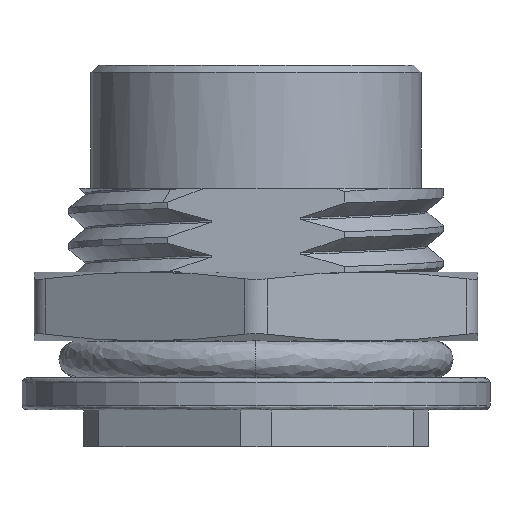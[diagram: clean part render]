
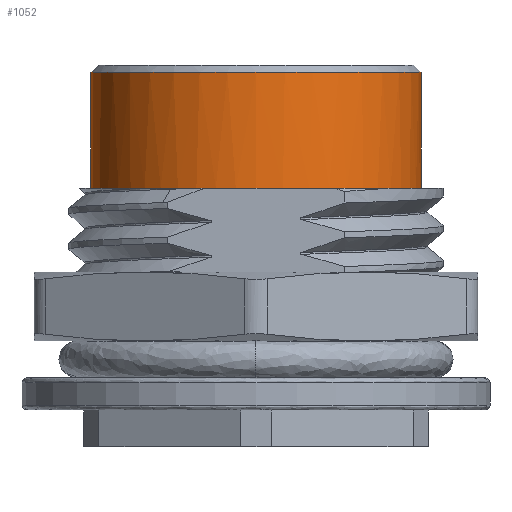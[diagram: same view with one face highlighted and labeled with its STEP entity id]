
A CAD part, left-side view. The second image highlights one B-rep face of the part: STEP entity #1052.
In plain terms, the highlighted cylindrical face has radius 6.7 mm (diameter 13.4 mm), a partial arc.
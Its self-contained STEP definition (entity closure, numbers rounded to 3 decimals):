
#369 = B_SPLINE_CURVE_WITH_KNOTS ( 'NONE', 3,
 ( #14713, #1195, #13230, #5742, #11763, #15460, #14276, #14180, #15661, #2054 ),
 .UNSPECIFIED., .F., .F.,
 ( 4, 2, 2, 2, 4 ),
 ( 0., 0.25, 0.5, 0.75, 1. ),
 .UNSPECIFIED. ) ;
#954 = CARTESIAN_POINT ( 'NONE',  ( -6.7, 0., -5. ) ) ;
#984 = VERTEX_POINT ( 'NONE', #9003 ) ;
#1052 = ADVANCED_FACE ( 'NONE', ( #19322 ), #1072, .T. ) ;
#1072 = CYLINDRICAL_SURFACE ( 'NONE', #1298, 6.7 ) ;
#1104 = CARTESIAN_POINT ( 'NONE',  ( 0., -6.7, 0.775 ) ) ;
#1113 = EDGE_CURVE ( 'NONE', #984, #5802, #9119, .T. ) ;
#1195 = CARTESIAN_POINT ( 'NONE',  ( -6.7, -0.877, -5. ) ) ;
#1268 = DIRECTION ( 'NONE',  ( 0., 0., -1. ) ) ;
#1298 = AXIS2_PLACEMENT_3D ( 'NONE', #3938, #1268, #2365 ) ;
#2054 = CARTESIAN_POINT ( 'NONE',  ( 0., -6.7, -5. ) ) ;
#2365 = DIRECTION ( 'NONE',  ( -1., 0., 0. ) ) ;
#2457 = CARTESIAN_POINT ( 'NONE',  ( 0., -6.7, -5. ) ) ;
#2458 = CARTESIAN_POINT ( 'NONE',  ( -5.358, 4.117, -5. ) ) ;
#3938 = CARTESIAN_POINT ( 'NONE',  ( 0., 0., 0.775 ) ) ;
#4333 = CARTESIAN_POINT ( 'NONE',  ( -0.877, 6.7, -5. ) ) ;
#4491 = CARTESIAN_POINT ( 'NONE',  ( 0., -6.7, -0.3 ) ) ;
#4587 = EDGE_CURVE ( 'NONE', #17839, #5086, #17780, .T. ) ;
#5086 = VERTEX_POINT ( 'NONE', #4491 ) ;
#5742 = CARTESIAN_POINT ( 'NONE',  ( -5.854, -3.374, -5. ) ) ;
#5802 = VERTEX_POINT ( 'NONE', #954 ) ;
#6194 = CARTESIAN_POINT ( 'NONE',  ( 0., 0., -0.3 ) ) ;
#6367 = VECTOR ( 'NONE', #6931, 1000. ) ;
#6495 = VECTOR ( 'NONE', #11541, 1000. ) ;
#6818 = VERTEX_POINT ( 'NONE', #11221 ) ;
#6931 = DIRECTION ( 'NONE',  ( 0., 0., 1. ) ) ;
#6997 = CARTESIAN_POINT ( 'NONE',  ( -6.526, 1.754, -5. ) ) ;
#7294 = CARTESIAN_POINT ( 'NONE',  ( -1.754, 6.526, -5. ) ) ;
#7662 = ORIENTED_EDGE ( 'NONE', *, *, #19356, .T. ) ;
#8377 = CARTESIAN_POINT ( 'NONE',  ( -6.7, 0.877, -5. ) ) ;
#8627 = EDGE_CURVE ( 'NONE', #5802, #17839, #369, .T. ) ;
#9003 = CARTESIAN_POINT ( 'NONE',  ( 0., 6.7, -5. ) ) ;
#9119 = B_SPLINE_CURVE_WITH_KNOTS ( 'NONE', 3,
 ( #10150, #4333, #7294, #14788, #13109, #2458, #19125, #6997, #8377, #17848 ),
 .UNSPECIFIED., .F., .F.,
 ( 4, 2, 2, 2, 4 ),
 ( 0., 0.25, 0.5, 0.75, 1. ),
 .UNSPECIFIED. ) ;
#10150 = CARTESIAN_POINT ( 'NONE',  ( 0., 6.7, -5. ) ) ;
#10219 = EDGE_LOOP ( 'NONE', ( #7662, #19215, #18265, #10235, #19491 ) ) ;
#10235 = ORIENTED_EDGE ( 'NONE', *, *, #4587, .T. ) ;
#11221 = CARTESIAN_POINT ( 'NONE',  ( 0., 6.7, -0.3 ) ) ;
#11541 = DIRECTION ( 'NONE',  ( 0., 0., -1. ) ) ;
#11763 = CARTESIAN_POINT ( 'NONE',  ( -5.358, -4.117, -5. ) ) ;
#13109 = CARTESIAN_POINT ( 'NONE',  ( -4.117, 5.358, -5. ) ) ;
#13230 = CARTESIAN_POINT ( 'NONE',  ( -6.526, -1.754, -5. ) ) ;
#13500 = DIRECTION ( 'NONE',  ( -1., 0., 0. ) ) ;
#13787 = DIRECTION ( 'NONE',  ( 0., 0., -1. ) ) ;
#13890 = AXIS2_PLACEMENT_3D ( 'NONE', #6194, #13787, #13500 ) ;
#14180 = CARTESIAN_POINT ( 'NONE',  ( -1.754, -6.526, -5. ) ) ;
#14276 = CARTESIAN_POINT ( 'NONE',  ( -3.374, -5.854, -5. ) ) ;
#14713 = CARTESIAN_POINT ( 'NONE',  ( -6.7, 0., -5. ) ) ;
#14788 = CARTESIAN_POINT ( 'NONE',  ( -3.374, 5.854, -5. ) ) ;
#15460 = CARTESIAN_POINT ( 'NONE',  ( -4.117, -5.358, -5. ) ) ;
#15661 = CARTESIAN_POINT ( 'NONE',  ( -0.877, -6.7, -5. ) ) ;
#15780 = CARTESIAN_POINT ( 'NONE',  ( 0., 6.7, 0.775 ) ) ;
#16172 = LINE ( 'NONE', #15780, #6495 ) ;
#16633 = EDGE_CURVE ( 'NONE', #5086, #6818, #18893, .T. ) ;
#17780 = LINE ( 'NONE', #1104, #6367 ) ;
#17839 = VERTEX_POINT ( 'NONE', #2457 ) ;
#17848 = CARTESIAN_POINT ( 'NONE',  ( -6.7, 0., -5. ) ) ;
#18265 = ORIENTED_EDGE ( 'NONE', *, *, #8627, .T. ) ;
#18893 = CIRCLE ( 'NONE', #13890, 6.7 ) ;
#19125 = CARTESIAN_POINT ( 'NONE',  ( -5.854, 3.374, -5. ) ) ;
#19215 = ORIENTED_EDGE ( 'NONE', *, *, #1113, .T. ) ;
#19322 = FACE_OUTER_BOUND ( 'NONE', #10219, .T. ) ;
#19356 = EDGE_CURVE ( 'NONE', #6818, #984, #16172, .T. ) ;
#19491 = ORIENTED_EDGE ( 'NONE', *, *, #16633, .T. ) ;
